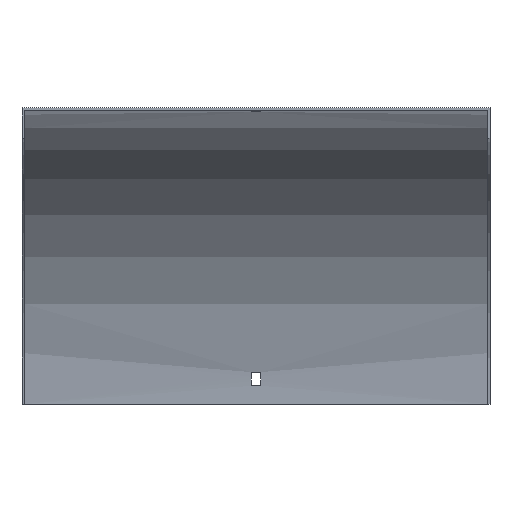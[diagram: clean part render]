
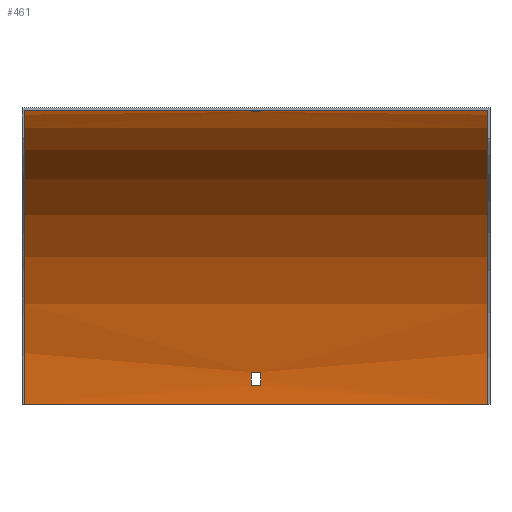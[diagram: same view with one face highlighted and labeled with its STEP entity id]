
A CAD part, top view. The second image highlights one B-rep face of the part: STEP entity #461.
In plain terms, the highlighted cylindrical face has radius 192.5 mm (diameter 385 mm), a partial arc.
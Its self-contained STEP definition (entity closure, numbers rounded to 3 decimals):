
#2 = ORIENTED_EDGE ( 'NONE', *, *, #306, .T. ) ;
#16 = CARTESIAN_POINT ( 'NONE',  ( 3.25, -194., 0. ) ) ;
#19 = VERTEX_POINT ( 'NONE', #296 ) ;
#30 = VERTEX_POINT ( 'NONE', #181 ) ;
#31 = CARTESIAN_POINT ( 'NONE',  ( 153.5, -194., 0. ) ) ;
#36 = AXIS2_PLACEMENT_3D ( 'NONE', #533, #107, #292 ) ;
#38 = DIRECTION ( 'NONE',  ( 1., 0., 0. ) ) ;
#42 = VERTEX_POINT ( 'NONE', #374 ) ;
#48 = ORIENTED_EDGE ( 'NONE', *, *, #508, .T. ) ;
#50 = CARTESIAN_POINT ( 'NONE',  ( 152., -194., -192.5 ) ) ;
#53 = AXIS2_PLACEMENT_3D ( 'NONE', #346, #120, #76 ) ;
#54 = DIRECTION ( 'NONE',  ( -1., 0., 0. ) ) ;
#59 = VERTEX_POINT ( 'NONE', #516 ) ;
#69 = CARTESIAN_POINT ( 'NONE',  ( 152., -1.5, 0. ) ) ;
#76 = DIRECTION ( 'NONE',  ( 0., 0., 1. ) ) ;
#82 = AXIS2_PLACEMENT_3D ( 'NONE', #161, #38, #297 ) ;
#85 = VERTEX_POINT ( 'NONE', #560 ) ;
#91 = CIRCLE ( 'NONE', #363, 192.5 ) ;
#94 = EDGE_CURVE ( 'NONE', #285, #59, #519, .T. ) ;
#95 = ORIENTED_EDGE ( 'NONE', *, *, #94, .F. ) ;
#97 = CARTESIAN_POINT ( 'NONE',  ( 153.5, -2.649, -21. ) ) ;
#98 = DIRECTION ( 'NONE',  ( 0., 0., 1. ) ) ;
#102 = CARTESIAN_POINT ( 'NONE',  ( -3.25, -194., 0. ) ) ;
#107 = DIRECTION ( 'NONE',  ( 1., 0., 0. ) ) ;
#108 = CIRCLE ( 'NONE', #36, 192.5 ) ;
#119 = ORIENTED_EDGE ( 'NONE', *, *, #275, .F. ) ;
#120 = DIRECTION ( 'NONE',  ( 1., 0., 0. ) ) ;
#121 = VERTEX_POINT ( 'NONE', #170 ) ;
#136 = EDGE_CURVE ( 'NONE', #231, #19, #380, .T. ) ;
#152 = CARTESIAN_POINT ( 'NONE',  ( 3.25, -194., 0. ) ) ;
#161 = CARTESIAN_POINT ( 'NONE',  ( -3.25, -194., 0. ) ) ;
#166 = FACE_BOUND ( 'NONE', #525, .T. ) ;
#170 = CARTESIAN_POINT ( 'NONE',  ( 152., -1.5, 0. ) ) ;
#181 = CARTESIAN_POINT ( 'NONE',  ( -3.25, -1.874, -12. ) ) ;
#184 = CARTESIAN_POINT ( 'NONE',  ( -3.25, -2.649, -21. ) ) ;
#189 = LINE ( 'NONE', #50, #464 ) ;
#190 = DIRECTION ( 'NONE',  ( 0., 0., 1. ) ) ;
#193 = CIRCLE ( 'NONE', #299, 192.5 ) ;
#200 = ORIENTED_EDGE ( 'NONE', *, *, #526, .F. ) ;
#208 = CARTESIAN_POINT ( 'NONE',  ( 153.5, -173., -191.351 ) ) ;
#214 = VECTOR ( 'NONE', #456, 1000. ) ;
#215 = CYLINDRICAL_SURFACE ( 'NONE', #406, 192.5 ) ;
#231 = VERTEX_POINT ( 'NONE', #283 ) ;
#232 = VECTOR ( 'NONE', #447, 1000. ) ;
#239 = EDGE_LOOP ( 'NONE', ( #569, #48, #514, #307 ) ) ;
#242 = ORIENTED_EDGE ( 'NONE', *, *, #489, .F. ) ;
#252 = CIRCLE ( 'NONE', #454, 192.5 ) ;
#255 = EDGE_CURVE ( 'NONE', #59, #279, #193, .T. ) ;
#257 = DIRECTION ( 'NONE',  ( 0., 0., 1. ) ) ;
#260 = VECTOR ( 'NONE', #539, 1000. ) ;
#262 = VERTEX_POINT ( 'NONE', #338 ) ;
#275 = EDGE_CURVE ( 'NONE', #607, #85, #189, .T. ) ;
#277 = DIRECTION ( 'NONE',  ( 1., 0., 0. ) ) ;
#279 = VERTEX_POINT ( 'NONE', #286 ) ;
#282 = ORIENTED_EDGE ( 'NONE', *, *, #553, .T. ) ;
#283 = CARTESIAN_POINT ( 'NONE',  ( -3.25, -173., -191.351 ) ) ;
#285 = VERTEX_POINT ( 'NONE', #184 ) ;
#286 = CARTESIAN_POINT ( 'NONE',  ( 3.25, -1.874, -12. ) ) ;
#292 = DIRECTION ( 'NONE',  ( 0., 0., 1. ) ) ;
#293 = DIRECTION ( 'NONE',  ( -1., 0., 0. ) ) ;
#296 = CARTESIAN_POINT ( 'NONE',  ( 3.25, -173., -191.351 ) ) ;
#297 = DIRECTION ( 'NONE',  ( 0., 0., -1. ) ) ;
#299 = AXIS2_PLACEMENT_3D ( 'NONE', #152, #570, #515 ) ;
#302 = CARTESIAN_POINT ( 'NONE',  ( 153.5, -1.874, -12. ) ) ;
#306 = EDGE_CURVE ( 'NONE', #607, #121, #108, .T. ) ;
#307 = ORIENTED_EDGE ( 'NONE', *, *, #428, .T. ) ;
#309 = LINE ( 'NONE', #69, #232 ) ;
#332 = DIRECTION ( 'NONE',  ( -1., 0., 0. ) ) ;
#337 = EDGE_LOOP ( 'NONE', ( #200, #119, #2, #282 ) ) ;
#338 = CARTESIAN_POINT ( 'NONE',  ( 3.25, -182., -192.126 ) ) ;
#345 = CIRCLE ( 'NONE', #82, 192.5 ) ;
#346 = CARTESIAN_POINT ( 'NONE',  ( -152., -194., 0. ) ) ;
#358 = CARTESIAN_POINT ( 'NONE',  ( 153.5, -182., -192.126 ) ) ;
#363 = AXIS2_PLACEMENT_3D ( 'NONE', #102, #293, #98 ) ;
#366 = EDGE_CURVE ( 'NONE', #30, #285, #91, .T. ) ;
#372 = VERTEX_POINT ( 'NONE', #474 ) ;
#374 = CARTESIAN_POINT ( 'NONE',  ( -3.25, -182., -192.126 ) ) ;
#380 = LINE ( 'NONE', #208, #503 ) ;
#406 = AXIS2_PLACEMENT_3D ( 'NONE', #31, #547, #257 ) ;
#425 = VECTOR ( 'NONE', #277, 1000. ) ;
#428 = EDGE_CURVE ( 'NONE', #19, #262, #252, .T. ) ;
#447 = DIRECTION ( 'NONE',  ( -1., 0., 0. ) ) ;
#450 = CIRCLE ( 'NONE', #53, 192.5 ) ;
#453 = LINE ( 'NONE', #358, #260 ) ;
#454 = AXIS2_PLACEMENT_3D ( 'NONE', #16, #332, #190 ) ;
#456 = DIRECTION ( 'NONE',  ( -1., 0., 0. ) ) ;
#461 = ADVANCED_FACE ( 'NONE', ( #166, #589, #543 ), #215, .F. ) ;
#464 = VECTOR ( 'NONE', #54, 1000. ) ;
#474 = CARTESIAN_POINT ( 'NONE',  ( -152., -1.5, 0. ) ) ;
#489 = EDGE_CURVE ( 'NONE', #279, #30, #496, .T. ) ;
#491 = CARTESIAN_POINT ( 'NONE',  ( 152., -194., -192.5 ) ) ;
#496 = LINE ( 'NONE', #302, #214 ) ;
#503 = VECTOR ( 'NONE', #592, 1000. ) ;
#508 = EDGE_CURVE ( 'NONE', #42, #231, #345, .T. ) ;
#514 = ORIENTED_EDGE ( 'NONE', *, *, #136, .T. ) ;
#515 = DIRECTION ( 'NONE',  ( 0., 0., -1. ) ) ;
#516 = CARTESIAN_POINT ( 'NONE',  ( 3.25, -2.649, -21. ) ) ;
#519 = LINE ( 'NONE', #97, #425 ) ;
#525 = EDGE_LOOP ( 'NONE', ( #577, #242, #552, #95 ) ) ;
#526 = EDGE_CURVE ( 'NONE', #85, #372, #450, .T. ) ;
#533 = CARTESIAN_POINT ( 'NONE',  ( 152., -194., 0. ) ) ;
#535 = EDGE_CURVE ( 'NONE', #262, #42, #453, .T. ) ;
#539 = DIRECTION ( 'NONE',  ( -1., 0., 0. ) ) ;
#543 = FACE_BOUND ( 'NONE', #239, .T. ) ;
#547 = DIRECTION ( 'NONE',  ( -1., 0., 0. ) ) ;
#552 = ORIENTED_EDGE ( 'NONE', *, *, #255, .F. ) ;
#553 = EDGE_CURVE ( 'NONE', #121, #372, #309, .T. ) ;
#560 = CARTESIAN_POINT ( 'NONE',  ( -152., -194., -192.5 ) ) ;
#569 = ORIENTED_EDGE ( 'NONE', *, *, #535, .T. ) ;
#570 = DIRECTION ( 'NONE',  ( 1., 0., 0. ) ) ;
#577 = ORIENTED_EDGE ( 'NONE', *, *, #366, .F. ) ;
#589 = FACE_OUTER_BOUND ( 'NONE', #337, .T. ) ;
#592 = DIRECTION ( 'NONE',  ( 1., 0., 0. ) ) ;
#607 = VERTEX_POINT ( 'NONE', #491 ) ;
